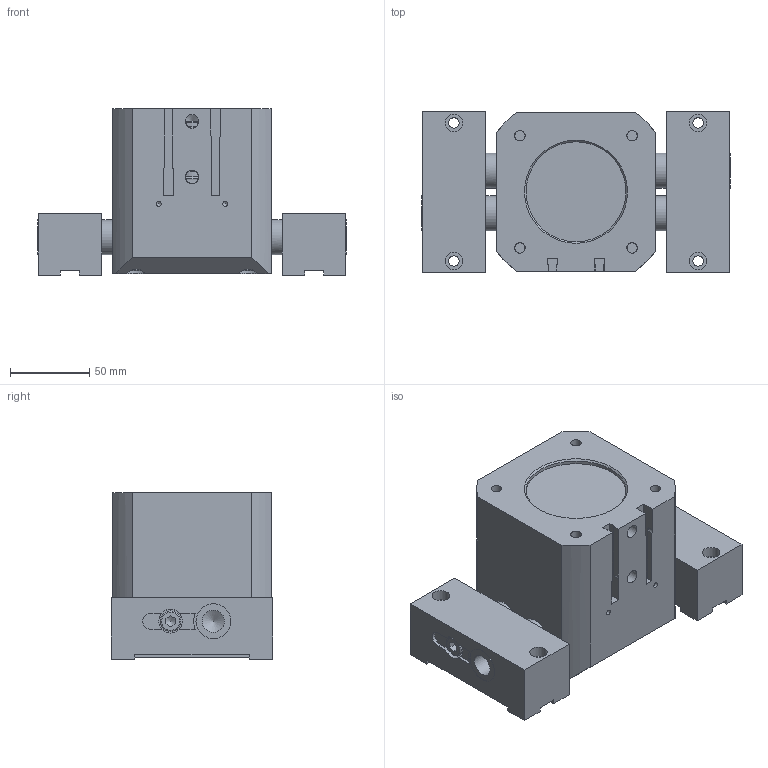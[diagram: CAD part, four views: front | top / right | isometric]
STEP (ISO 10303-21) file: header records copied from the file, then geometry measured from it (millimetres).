
FILE_DESCRIPTION((''),'2;1');
FILE_NAME('T:\CAD\Standard\Daten\3D-Datenbank\GP\4 - 3D-CAD-Daten GP 050-125\GP125\step-Daten\G-GP050-l1-GÖ+UB open.stp','2013-11-07T13:32:35',('Dirk'),(''),'Autodesk Inventor 2011','Autodesk Inventor 2011','');
FILE_SCHEMA(('AUTOMOTIVE_DESIGN { 1 0 10303 214 1 1 1 1 }'));
Length unit declared in the file: millimetre
Products named in the file (1): Bauteil71
Bounding box: 194.17 x 102 x 105 mm (x, y, z)
Volume: 1130893.9 mm3; surface area: 191705.8 mm2
Topology: 1 solids, 19 shells, 412 faces, 1040 edges, 673 vertices
Faces by surface type: plane 238, cylinder 113, cone 36, torus 24, bspline 1
Full cylindrical faces by diameter (mm): 3.242 x2, 6.647 x10, 8 x6, 8.566 x2, 9 x6, 10.106 x1, 11 x4, 12 x1, 13 x7, 14 x2, 15 x8, 22 x8, 24 x1, 25 x7, 28 x1, 31.4 x2, 37 x2, 52 x2, 60 x2, 63 x1, 70.2 x1, 77.1 x2, 80 x5
Entity records: 12648 total; most frequent: CARTESIAN_POINT 3147, DIRECTION 1890, ORIENTED_EDGE 1658, EDGE_CURVE 829, AXIS2_PLACEMENT_3D 731, EDGE_LOOP 627, VERTEX_POINT 601, VECTOR 428
